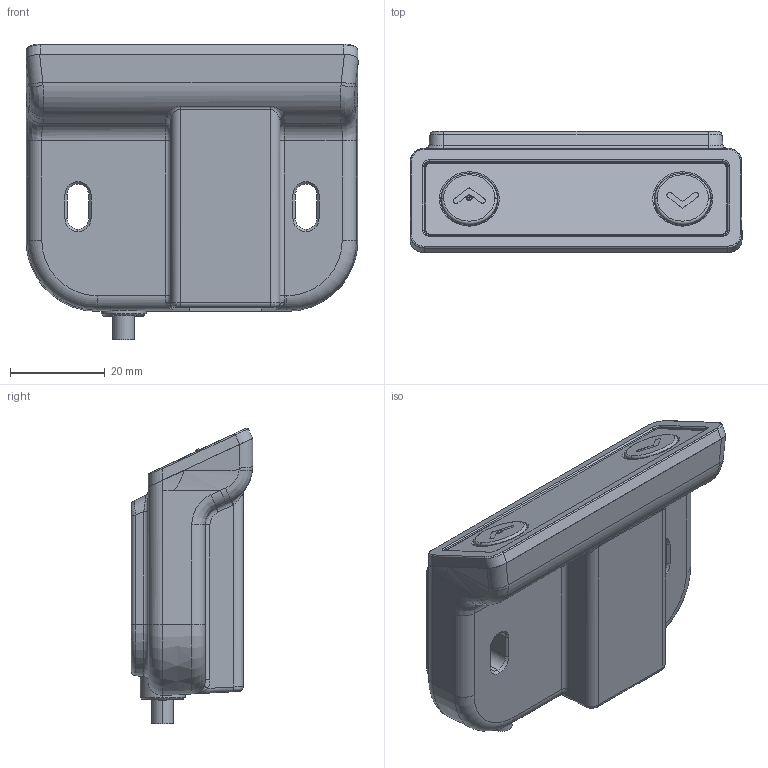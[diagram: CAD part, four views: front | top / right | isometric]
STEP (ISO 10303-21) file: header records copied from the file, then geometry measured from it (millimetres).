
FILE_DESCRIPTION (( 'STEP AP203' ), '1' );
FILE_NAME ('3D_TDH8D.STEP', '2022-12-13T07:22:13', ( '' ), ( '' ), 'SwSTEP 2.0', 'SolidWorks 2015', '' );
FILE_SCHEMA (( 'CONFIG_CONTROL_DESIGN' ));
Length unit declared in the file: millimetre
Products named in the file (1): 3D_TDH8D
Bounding box: 70.02 x 25.61 x 62.4 mm (x, y, z)
Volume: 61128.4 mm3; surface area: 26583.5 mm2
Topology: 11 solids, 11 shells, 465 faces, 1162 edges, 727 vertices
Faces by surface type: plane 178, cylinder 123, cone 74, bspline 44, torus 34, sphere 12
Entity records: 18487 total; most frequent: CARTESIAN_POINT 7619, ORIENTED_EDGE 2304, DIRECTION 2228, EDGE_CURVE 1152, AXIS2_PLACEMENT_3D 840, VERTEX_POINT 727, LINE 548, VECTOR 548
